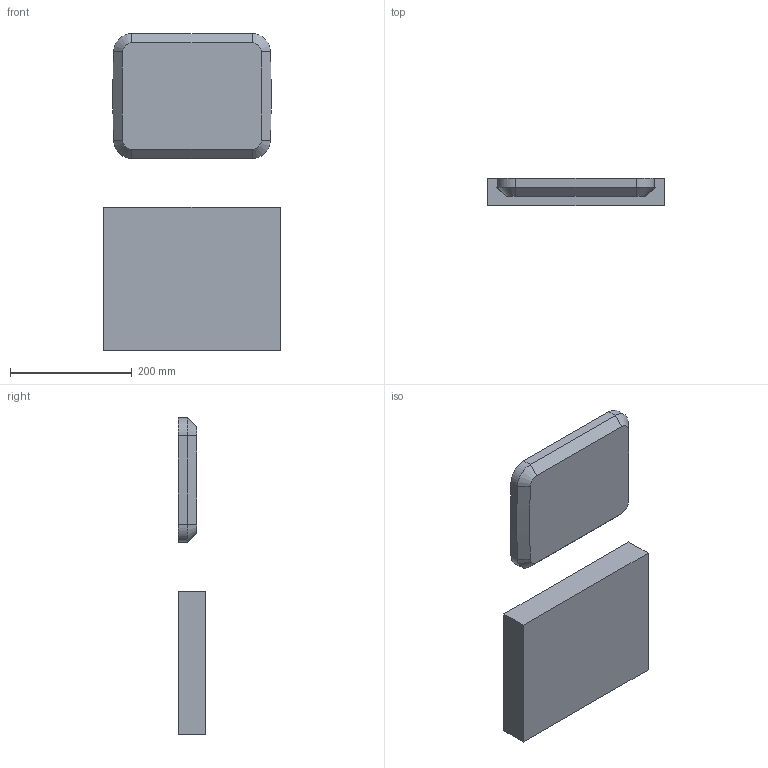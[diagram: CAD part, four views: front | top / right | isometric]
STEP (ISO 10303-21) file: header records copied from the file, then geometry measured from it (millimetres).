
FILE_DESCRIPTION (( 'STEP AP203' ), '1' );
FILE_NAME ('STA-300-255.STEP', '2018-06-20T11:12:02', ( '' ), ( '' ), 'SwSTEP 2.0', 'SolidWorks 2016', '' );
FILE_SCHEMA (( 'CONFIG_CONTROL_DESIGN' ));
Length unit declared in the file: millimetre
Products named in the file (1): STA-300-255
Bounding box: 290 x 45 x 520 mm (x, y, z)
Volume: 3066750 mm3; surface area: 324531.8 mm2
Topology: 2 solids, 2 shells, 41 faces, 92 edges, 56 vertices
Faces by surface type: plane 17, cylinder 12, cone 12
Entity records: 1209 total; most frequent: DIRECTION 212, CARTESIAN_POINT 190, ORIENTED_EDGE 184, EDGE_CURVE 92, AXIS2_PLACEMENT_3D 78, VECTOR 56, VERTEX_POINT 56, LINE 56
